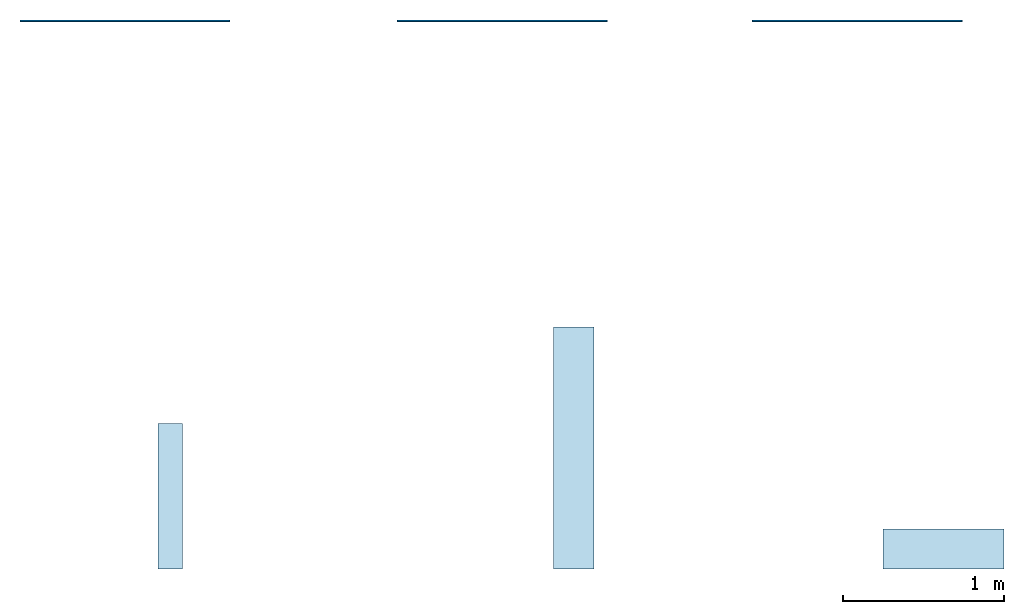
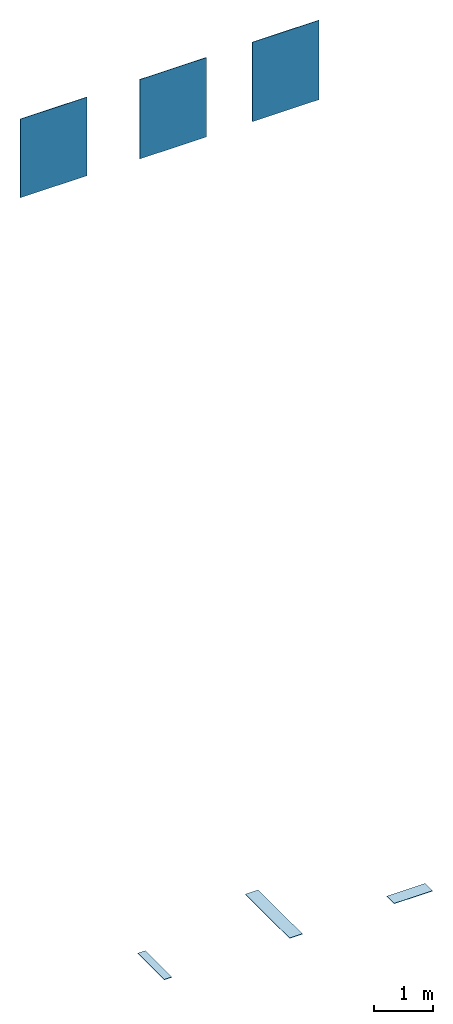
# One storey: 3 slabs, 3 walls.
"""IFC2X3 building model written with IfcOpenShell, lengths in millimetres."""

from ifc_helpers import new_model, entity, si_unit, converted_unit, derived_unit, direction, frame, frame_2d, origin, place, context, subcontext, project, spatial, rectangle, extrude, material, layer, layer_set, layer_usage, type_object, element, save


model = new_model("IFC2X3")

# Units and contexts
model_context = context("Model", 3, precision=0.01, world=origin(), true_north=direction((6.12303176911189e-17, 1.0)))
body_context = subcontext(model_context, "Body", "Model", "MODEL_VIEW")
ifc_project = project(units=[si_unit("LENGTHUNIT", "METRE", prefix="MILLI"), si_unit("AREAUNIT", "SQUARE_METRE"), si_unit("VOLUMEUNIT", "CUBIC_METRE"), converted_unit("PLANEANGLEUNIT", "DEGREE", entity("IfcRatioMeasure", 0.0174532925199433), si_unit("PLANEANGLEUNIT", "RADIAN"), dimensions=[0, 0, 0, 0, 0, 0, 0]), si_unit("MASSUNIT", "GRAM", prefix="KILO"), derived_unit("MASSDENSITYUNIT", [(si_unit("MASSUNIT", "GRAM", prefix="KILO"), 1), (si_unit("LENGTHUNIT", "METRE"), -3)]), derived_unit("MOMENTOFINERTIAUNIT", [(si_unit("LENGTHUNIT", "METRE"), 4)]), si_unit("TIMEUNIT", "SECOND"), si_unit("FREQUENCYUNIT", "HERTZ"), si_unit("THERMODYNAMICTEMPERATUREUNIT", "DEGREE_CELSIUS"), derived_unit("THERMALTRANSMITTANCEUNIT", [(si_unit("MASSUNIT", "GRAM", prefix="KILO"), 1), (si_unit("THERMODYNAMICTEMPERATUREUNIT", "KELVIN"), -1), (si_unit("TIMEUNIT", "SECOND"), -3)]), derived_unit("VOLUMETRICFLOWRATEUNIT", [(si_unit("LENGTHUNIT", "METRE"), 3), (si_unit("TIMEUNIT", "SECOND"), -1)]), si_unit("ELECTRICCURRENTUNIT", "AMPERE"), si_unit("ELECTRICVOLTAGEUNIT", "VOLT"), si_unit("POWERUNIT", "WATT"), si_unit("FORCEUNIT", "NEWTON", prefix="KILO"), si_unit("ILLUMINANCEUNIT", "LUX"), si_unit("LUMINOUSFLUXUNIT", "LUMEN"), si_unit("LUMINOUSINTENSITYUNIT", "CANDELA"), derived_unit("USERDEFINED", [(si_unit("MASSUNIT", "GRAM", prefix="KILO"), -1), (si_unit("LENGTHUNIT", "METRE"), -2), (si_unit("TIMEUNIT", "SECOND"), 3), (si_unit("LUMINOUSFLUXUNIT", "LUMEN"), 1)]), derived_unit("LINEARVELOCITYUNIT", [(si_unit("LENGTHUNIT", "METRE"), 1), (si_unit("TIMEUNIT", "SECOND"), -1)]), si_unit("PRESSUREUNIT", "PASCAL"), derived_unit("USERDEFINED", [(si_unit("LENGTHUNIT", "METRE"), -2), (si_unit("MASSUNIT", "GRAM", prefix="KILO"), 1), (si_unit("TIMEUNIT", "SECOND"), -2)]), derived_unit("LINEARFORCEUNIT", [(si_unit("MASSUNIT", "GRAM", prefix="KILO"), 1), (si_unit("LENGTHUNIT", "METRE"), 1), (si_unit("TIMEUNIT", "SECOND"), -2), (si_unit("LENGTHUNIT", "METRE"), -1)]), derived_unit("PLANARFORCEUNIT", [(si_unit("MASSUNIT", "GRAM", prefix="KILO"), 1), (si_unit("LENGTHUNIT", "METRE"), 1), (si_unit("TIMEUNIT", "SECOND"), -2), (si_unit("LENGTHUNIT", "METRE"), -2)])], contexts=[model_context])

# Site, building, storey
site_placement = place(None, origin())
site = spatial("IfcSite", under=ifc_project, at=site_placement, Name="Default", CompositionType="ELEMENT")
building_placement = place(site_placement, origin())
building = spatial("IfcBuilding", under=site, at=building_placement, CompositionType="ELEMENT")
storey_placement = place(building_placement, origin())
storey = spatial("IfcBuildingStorey", under=building, at=storey_placement, Name="Level 0", CompositionType="ELEMENT", Elevation=0.0)

# Slabs
ifc_material_1 = material(Name="Larix-Fresh-15x90 OB51")
ifc_layer_1 = layer(ifc_material_1, 9.0)
ifc_material_2 = material(Name="<Unnamed>")
ifc_layer_2 = layer(ifc_material_2, 1.0)
ifc_layer_set_1 = layer_set([ifc_layer_1, ifc_layer_2], Name="Floor:Floor_Tiles_Refin-Larix-Fresh-15x90 OB51")
ifc_layer_usage_1 = layer_usage(ifc_layer_set_1, "AXIS3", "POSITIVE", 0.0)
slab_type_1 = type_object("IfcSlabType", Name="Floor:Floor_Tiles_Refin-Larix-Fresh-15x90 OB51", PredefinedType="FLOOR", material=ifc_layer_set_1)
slab_1_placement = place(storey_placement, origin())
element("IfcSlab", 1, at=slab_1_placement, inside=storey, type_object=slab_type_1, material=ifc_layer_usage_1, Name="Floor:Floor_Tiles_Refin-Larix-Fresh-15x90 OB51", ObjectType="Floor:Floor_Tiles_Refin-Larix-Fresh-15x90 OB51", PredefinedType="FLOOR", context=body_context, shape_type="SweptSolid", body=[
    extrude(rectangle(XDim=900.0, YDim=150.000000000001, at=frame_2d((5.40012479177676e-13, 0.0), x_axis=(1.0, 0.0))), frame((6849.37520617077, 5189.4623742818, 0.0), z_axis=(0.0, 0.0, -1.0), x_axis=(0.0, 1.0, 0.0)), (0.0, 0.0, 1.0), 10.0),
])
ifc_material_3 = material(Name="Larix-Fresh-25x150 LE14")
ifc_layer_3 = layer(ifc_material_3, 9.0)
ifc_layer_4 = layer(ifc_material_2, 1.0)
ifc_layer_set_2 = layer_set([ifc_layer_3, ifc_layer_4], Name="Floor:Floor_Tiles_Refin-Larix-Fresh-25x150 LE14")
ifc_layer_usage_2 = layer_usage(ifc_layer_set_2, "AXIS3", "POSITIVE", 0.0)
slab_type_2 = type_object("IfcSlabType", Name="Floor:Floor_Tiles_Refin-Larix-Fresh-25x150 LE14", PredefinedType="FLOOR", material=ifc_layer_set_2)
slab_2_placement = place(storey_placement, origin())
element("IfcSlab", 2, at=slab_2_placement, inside=storey, type_object=slab_type_2, material=ifc_layer_usage_2, Name="Floor:Floor_Tiles_Refin-Larix-Fresh-25x150 LE14", ObjectType="Floor:Floor_Tiles_Refin-Larix-Fresh-25x150 LE14", PredefinedType="FLOOR", context=body_context, shape_type="SweptSolid", body=[
    extrude(rectangle(XDim=1500.0, YDim=249.999999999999, at=frame_2d((-5.11590769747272e-13, 0.0), x_axis=(1.0, 0.0))), frame((9349.37520617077, 5488.41920639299, 0.0), z_axis=(0.0, 0.0, -1.0), x_axis=(0.0, 1.0, 0.0)), (0.0, 0.0, 1.0), 10.0),
])
ifc_material_4 = material(Name="Larix-Fresh-Muretto-25x75 LF55")
ifc_layer_5 = layer(ifc_material_4, 9.0)
ifc_layer_6 = layer(ifc_material_2, 1.0)
ifc_layer_set_3 = layer_set([ifc_layer_5, ifc_layer_6], Name="Floor:Floor_Tiles_Refin-Larix-Fresh-Muretto-25x75 LF55")
ifc_layer_usage_3 = layer_usage(ifc_layer_set_3, "AXIS3", "POSITIVE", 0.0)
slab_type_3 = type_object("IfcSlabType", Name="Floor:Floor_Tiles_Refin-Larix-Fresh-Muretto-25x75 LF55", PredefinedType="FLOOR", material=ifc_layer_set_3)
slab_3_placement = place(storey_placement, origin())
element("IfcSlab", 3, at=slab_3_placement, inside=storey, type_object=slab_type_3, material=ifc_layer_usage_3, Name="Floor:Floor_Tiles_Refin-Larix-Fresh-Muretto-25x75 LF55", ObjectType="Floor:Floor_Tiles_Refin-Larix-Fresh-Muretto-25x75 LF55", PredefinedType="FLOOR", context=body_context, shape_type="SweptSolid", body=[
    extrude(rectangle(XDim=250.000000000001, YDim=750.000000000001, at=frame_2d((-5.40012479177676e-13, -1.08002495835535e-12), x_axis=(1.0, 0.0))), frame((11642.3924054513, 4863.41920639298, 0.0), z_axis=(0.0, 0.0, -1.0), x_axis=(0.0, 1.0, 0.0)), (0.0, 0.0, 1.0), 10.0),
])

# Walls
ifc_layer_7 = layer(ifc_material_2, 1.0)
ifc_layer_8 = layer(ifc_material_3, 9.0)
ifc_layer_set_4 = layer_set([ifc_layer_7, ifc_layer_8], Name="Basic Wall:Wall_Tiles_Refin-Larix-Fresh-25x150 LE14")
ifc_layer_usage_4 = layer_usage(ifc_layer_set_4, "AXIS2", "NEGATIVE", 5.0)
wall_type_1 = type_object("IfcWallType", Name="Basic Wall:Wall_Tiles_Refin-Larix-Fresh-25x150 LE14", PredefinedType="STANDARD", material=ifc_layer_set_4)
wall_1_placement = place(storey_placement, frame((8257.37520617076, 8137.38386313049, 14387.6770443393)))
element("IfcWallStandardCase", 4, at=wall_1_placement, inside=storey, type_object=wall_type_1, material=ifc_layer_usage_4, Name="Basic Wall:Wall_Tiles_Refin-Larix-Fresh-25x150 LE14", ObjectType="Basic Wall:Wall_Tiles_Refin-Larix-Fresh-25x150 LE14", context=body_context, shape_type="SweptSolid", body=[
    extrude(rectangle(XDim=1300.0, YDim=9.99999999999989, at=frame_2d((650.0, 7.63833440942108e-14), x_axis=(-1.0, 0.0))), origin(), (0.0, 0.0, 1.0), 1641.74173522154),
])
ifc_layer_9 = layer(ifc_material_2, 1.0)
ifc_layer_10 = layer(ifc_material_4, 9.0)
ifc_layer_set_5 = layer_set([ifc_layer_9, ifc_layer_10], Name="Basic Wall:Wall_Tiles_Refin-Larix-Fresh-Muretto-25x75 LF55")
ifc_layer_usage_5 = layer_usage(ifc_layer_set_5, "AXIS2", "NEGATIVE", 5.0)
wall_type_2 = type_object("IfcWallType", Name="Basic Wall:Wall_Tiles_Refin-Larix-Fresh-Muretto-25x75 LF55", PredefinedType="STANDARD", material=ifc_layer_set_5)
wall_2_placement = place(storey_placement, frame((10457.3752061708, 8137.38386313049, 14387.6770443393)))
element("IfcWallStandardCase", 5, at=wall_2_placement, inside=storey, type_object=wall_type_2, material=ifc_layer_usage_5, Name="Basic Wall:Wall_Tiles_Refin-Larix-Fresh-Muretto-25x75 LF55", ObjectType="Basic Wall:Wall_Tiles_Refin-Larix-Fresh-Muretto-25x75 LF55", context=body_context, shape_type="SweptSolid", body=[
    extrude(rectangle(XDim=1300.0, YDim=9.99999999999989, at=frame_2d((650.0, 7.63833440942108e-14), x_axis=(-1.0, 0.0))), origin(), (0.0, 0.0, 1.0), 1641.74173522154),
])
ifc_layer_11 = layer(ifc_material_2, 1.0)
ifc_layer_12 = layer(ifc_material_1, 9.0)
ifc_layer_set_6 = layer_set([ifc_layer_11, ifc_layer_12], Name="Basic Wall:Wall_Tiles_Refin-Larix-Fresh-15x90 OB51")
ifc_layer_usage_6 = layer_usage(ifc_layer_set_6, "AXIS2", "NEGATIVE", 5.0)
wall_type_3 = type_object("IfcWallType", Name="Basic Wall:Wall_Tiles_Refin-Larix-Fresh-15x90 OB51", PredefinedType="STANDARD", material=ifc_layer_set_6)
wall_3_placement = place(storey_placement, frame((5917.37520617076, 8137.38386313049, 14403.726734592)))
element("IfcWallStandardCase", 6, at=wall_3_placement, inside=storey, type_object=wall_type_3, material=ifc_layer_usage_6, Name="Basic Wall:Wall_Tiles_Refin-Larix-Fresh-15x90 OB51", ObjectType="Basic Wall:Wall_Tiles_Refin-Larix-Fresh-15x90 OB51", context=body_context, shape_type="SweptSolid", body=[
    extrude(rectangle(XDim=1300.0, YDim=9.99999999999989, at=frame_2d((650.0, 7.63833440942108e-14), x_axis=(-1.0, 0.0))), origin(), (0.0, 0.0, 1.0), 1625.69204496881),
])

save(model, "model.ifc")
